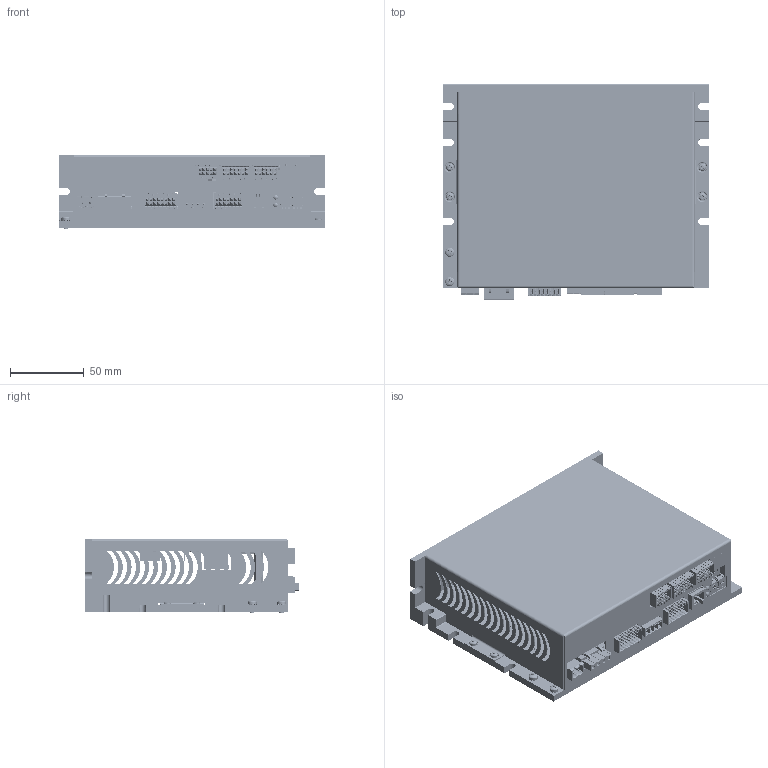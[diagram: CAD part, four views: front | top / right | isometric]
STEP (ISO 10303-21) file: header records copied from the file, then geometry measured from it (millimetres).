
FILE_DESCRIPTION(/* description */ ('Unknown'),/* implementation_level */ '2;1');
FILE_NAME(/* name */ 'SW5A9030E2G1-20',/* time_stamp */ '2021-09-24T17:10:25+02:00',/* author */ ('Unknown'),/* organization */ ('Unknown'),/* preprocessor_version */ 'ST-DEVELOPER v16.7',/* originating_system */ 'Solid Edge',/* authorisation */ 'Unknown');
FILE_SCHEMA (('AUTOMOTIVE_DESIGN {1 0 10303 214 3 1 1}'));
Products named in the file (458): SW5A9030; estruso_sw5a9030_isd04_inserti; ESTRUSO_SW5A9030_ISD04; inserto_m2_5x12mm; ad_01121_sw5a9030_isd04; hexdist_MF_M2e5 x 30mm; dentellata_M3; tcc_M2e5x05; ISD04-00_oa_0; Board; Open CASCADE STEP translator 6.8 2.1.1; CN7; 1782378; mc_1.5-4-g-3.81-p14-thr; CN3; dinkle_0156-1514; CN2; 1731086; CN4; dinkle_0156-1516l; GL400; 5151061f; J400; IMD03DIP-00; DIP100; a6e-4104; SW401; RTE0400V04; SW400; CN6; 955012641; Open CASCADE STEP translator 6.8 2.503.1.1; Open CASCADE STEP translator 6.8 2.503.1.2; CN1; CA02MHLT5.08B_1757242; MSTBA_2_5-2-G-5_08-72070_ASM; MSTBA_2_5-2-G-5_08-69580; tcc_M3x06; Scatola SW5A9030 con ISD04; ISX04-00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
Assembly tree (760 placements, depth 11):
  SW5A9030
    estruso_sw5a9030_isd04_inserti
      ESTRUSO_SW5A9030_ISD04
      inserto_m2_5x12mm  x3
    ad_01121_sw5a9030_isd04
    hexdist_MF_M2e5 x 30mm  x2
    dentellata_M3  x2
    tcc_M2e5x05  x12
    ISD04-00_oa_0
      Board
        Open CASCADE STEP translator 6.8 2.1.1
      CN7
        1782378
          mc_1.5-4-g-3.81-p14-thr
      CN3
        dinkle_0156-1514
      CN2
        1731086
      CN4
        dinkle_0156-1516l
      GL400
        5151061f
      J400
        IMD03DIP-00
          Board
          DIP100
            a6e-4104
      SW401
        RTE0400V04
      SW400
        RTE0400V04
      CN6
        955012641
          Open CASCADE STEP translator 6.8 2.503.1.1
          Open CASCADE STEP translator 6.8 2.503.1.2
      CN1
        CA02MHLT5.08B_1757242
          MSTBA_2_5-2-G-5_08-72070_ASM
            MSTBA_2_5-2-G-5_08-69580
    tcc_M3x06  x2
    Scatola SW5A9030 con ISD04
    ISX04-00
      Board
        Open CASCADE STEP translator 6.8 2.1.1
      IC700
        User_Library-so14-2
      J402
        010897061
          Open CASCADE STEP translator 6.8 2.3.1.1
          Open CASCADE STEP translator 6.8 2.3.1.2
      IC401
        User_Library-TSSOP14-1
      CN13
        dinkle_0156-1510_COLORATO
      Z600
        User_Library-DO-214AA(SMB)
      XT900
        123
      XT400
        xtal_smd_5x3e2
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Bounding box: 180.7 x 146.11 x 50.4 mm (x, y, z)
Volume: 282727.7 mm3; surface area: 247286.9 mm2
Topology: 453 solids, 487 shells, 26264 faces, 66769 edges, 40758 vertices
Faces by surface type: plane 16085, cylinder 6674, sphere 1564, bspline 962, torus 835, cone 144
Full cylindrical faces by diameter (mm): 0.037 x8, 0.3 x1, 0.434 x1, 0.457 x2, 0.6 x8, 0.704 x2, 0.762 x48, 0.8 x12, 0.889 x8, 0.9 x20, 1 x27, 1.016 x58, 1.2 x8, 1.25 x4, 1.27 x2, 1.35 x24, 1.351 x12, 1.397 x1, 1.4 x108, 1.5 x6, 1.524 x6, 1.53 x1, 1.55 x1, 1.6 x10, 1.778 x4, 2 x2, 2.013 x9, 2.032 x6, 2.05 x3, 2.459 x2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
Entity records: 470027 total; most frequent: CARTESIAN_POINT 84668, ORIENTED_EDGE 66633, DIRECTION 63360, EDGE_CURVE 33368, LINE 27044, VECTOR 27044, VERTEX_POINT 21819, AXIS2_PLACEMENT_3D 18158
